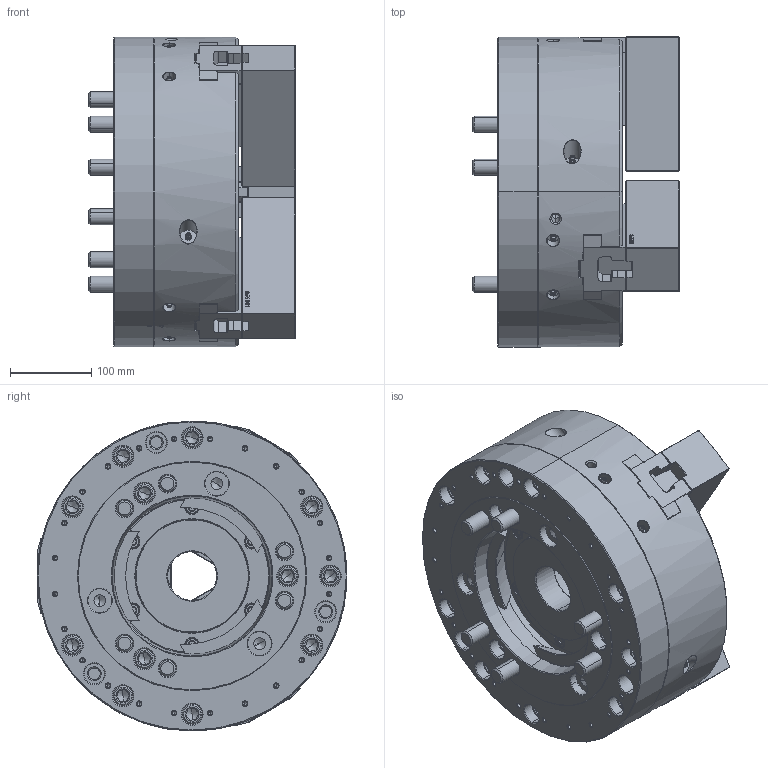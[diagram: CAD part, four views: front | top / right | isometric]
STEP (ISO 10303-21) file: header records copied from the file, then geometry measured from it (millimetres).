
FILE_DESCRIPTION (( 'STEP AP214' ), '1' );
FILE_NAME ('DT1_HOH-15K_OUTSIDE_VIEW_UC.STEP', '2025-12-07T23:17:21', ( '' ), ( '' ), 'SwSTEP 2.0', 'SolidWorks 2022', '' );
FILE_SCHEMA (( 'AUTOMOTIVE_DESIGN' ));
Length unit declared in the file: millimetre
Products named in the file (9): DT1_HOH-15K_COVER^DT1_HOH-15K; DT1_HOH-15K_DRAWNUT^DT1_HOH-15K; DT1_HOH-15K_M6x20^DT1_HOH-15K; DT1_HOH-15K_TNUT^DT1_HOH-15K; DT1_HOH-15K_M20x160^DT1_HOH-15K; DT1_HOH-15K_BASE^DT1_HOH-15K; DT1_HOH-15K_M20x55^DT1_HOH-15K; DT1_HOH-15K_OUTSIDE_VIEW_UC; DT1_HOH-15K_SOFTJAW^DT1_HOH-15K
Assembly tree (27 placements, depth 2):
  DT1_HOH-15K_OUTSIDE_VIEW_UC
    DT1_HOH-15K_SOFTJAW^DT1_HOH-15K  x3
    DT1_HOH-15K_TNUT^DT1_HOH-15K  x3
    DT1_HOH-15K_DRAWNUT^DT1_HOH-15K
    DT1_HOH-15K_COVER^DT1_HOH-15K
    DT1_HOH-15K_BASE^DT1_HOH-15K
    DT1_HOH-15K_M6x20^DT1_HOH-15K  x6
    DT1_HOH-15K_M20x55^DT1_HOH-15K  x6
    DT1_HOH-15K_M20x160^DT1_HOH-15K  x6
Bounding box: 254 x 381.25 x 381 mm (x, y, z)
Volume: 16784332.5 mm3; surface area: 1239460.8 mm2
Topology: 27 solids, 27 shells, 8058 faces, 22798 edges, 14909 vertices
Faces by surface type: plane 4679, cylinder 2269, cone 694, bspline 317, torus 81, sphere 18
Entity records: 190543 total; most frequent: CARTESIAN_POINT 64098, ORIENTED_EDGE 28620, DIRECTION 22906, EDGE_CURVE 14310, VECTOR 9874, LINE 9874, VERTEX_POINT 9360, AXIS2_PLACEMENT_3D 6516
